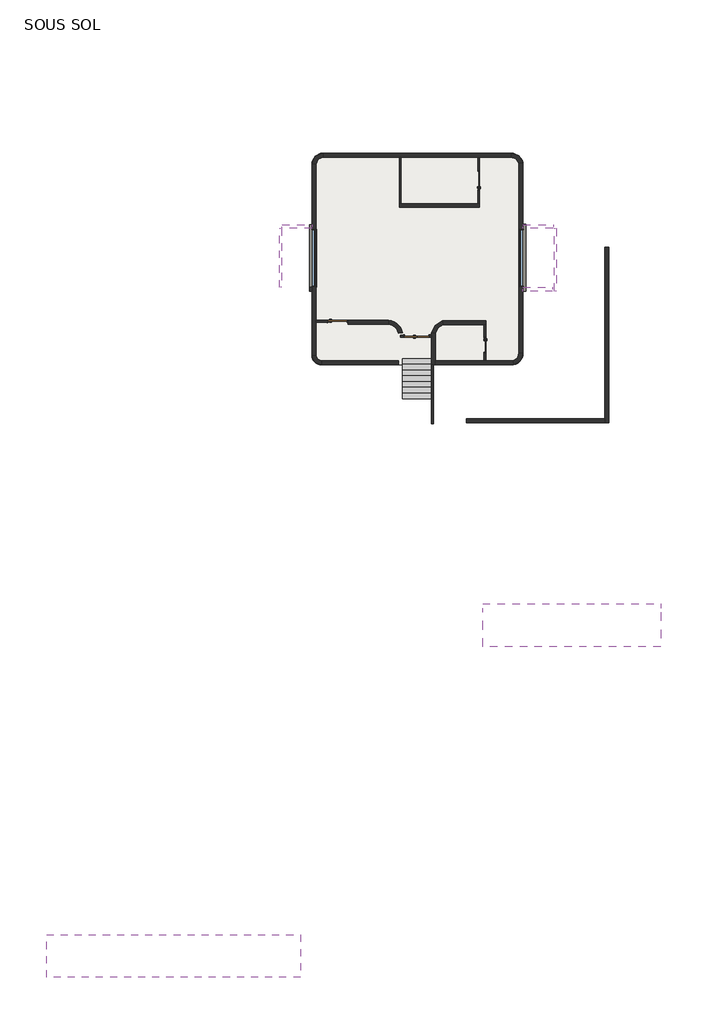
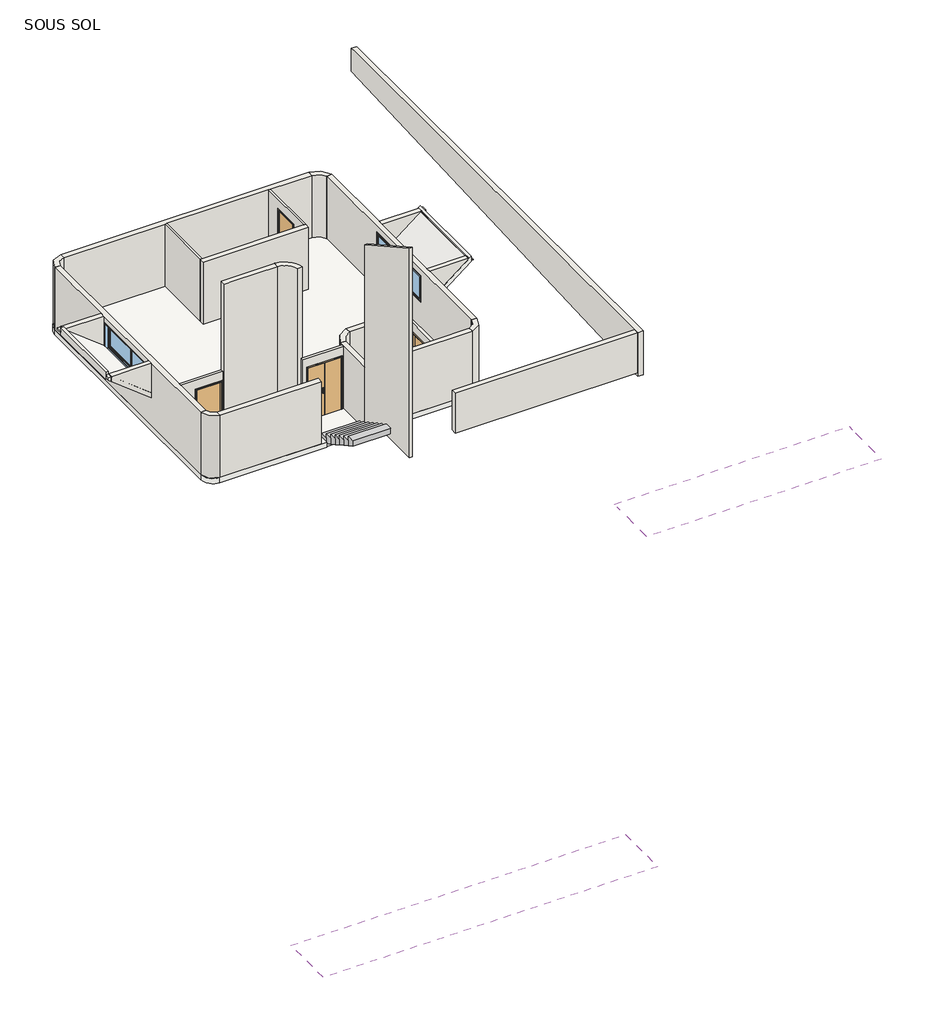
# One storey: 29 walls, 4 doors, 3 slabs, 2 coverings, 2 windows, 1 stair flight.
"""IFC4 building model written with IfcOpenShell, lengths in millimetres."""

from ifc_helpers import new_model, si_unit, point, frame, frame_2d, origin, place, context, project, spatial, polyline, circle_curve, trimmed, segment, composite_curve, outline, extrude, faceted_brep, transform, mapped, element, save
from ifc_brep_helpers import plane_surface, cylinder_surface, revolved_surface, advanced_brep
from components import door_eeb2bbe0, door_b2d4c190, door_68d1b237, double_r_1_23m_x_2_04m_3a946b1f, window_280_x_100_cm_213e6699

model = new_model("IFC4")

# Units and contexts
model_context = context("Model", 3, world=origin())
ifc_project = project(units=[si_unit("LENGTHUNIT", "METRE", prefix="MILLI")], contexts=[model_context])

# Site, building, storey
site = spatial("IfcSite", under=ifc_project)
building = spatial("IfcBuilding", under=site)
storey = spatial("IfcBuildingStorey", under=building, Name="SOUS SOL", Elevation=-316.6917258)

# Coverings
placement = place(None, origin())
element("IfcCovering", 1, ObjectType="Normal", at=placement, inside=storey, context=model_context, shape_type="SweptSolid", body=[
    extrude(outline(polyline([(-36043.9891754, -14029.1151366), (-36043.9891754, -11959.0543062), (-23707.6330901, -11959.0543062), (-23707.6330901, -14029.1151366), (-36043.9891754, -14029.1151366)])), frame((0.0, 0.0, 2903.3082742), z_axis=(0.0, 0.0, 1.0), x_axis=(1.0, 0.0, 0.0)), (0.0, 0.0, 1.0), 50.0),
])
element("IfcCovering", 2, ObjectType="Normal", at=placement, inside=storey, context=model_context, shape_type="Brep", body=[
    faceted_brep([(-6198.0226928, 2020.9456807, 2983.3082742), (-6184.2677718, 3710.8240436, 2983.3082742), (-6181.0119349, 4110.8240436, 2983.3082742), (-14844.7120712, 4110.8240436, 2983.3082742), (-14844.7120712, 3710.8240436, 2983.3082742), (-14844.7120712, 2020.9456807, 2983.3082742), (-6198.0226928, 2020.9456807, 2933.3082742), (-14844.7120712, 2020.9456807, 2933.3082742), (-14844.7120712, 4110.8240436, 2933.3082742), (-6181.0119349, 4110.8240436, 2933.3082742), (-14844.7120712, 4110.8240436, 2973.3082742), (-6181.0119349, 4110.8240436, 2973.3082742)], [[[0, 1, 2, 3, 4, 5]], [[6, 7, 8, 9]], [[0, 5, 7, 6]], [[5, 4, 3, 10, 8, 7]], [[3, 2, 11, 9, 8, 10]], [[2, 1, 0, 6, 9, 11]]]),
])

# Doors
door_shape = door_eeb2bbe0(model_context)
element("IfcDoor", 3, ObjectType="@_Int. Simple : @_PP (0.73m x 2.04m)", at=placement, inside=storey, context=model_context, shape_type="MappedRepresentation", body=[
    mapped(door_shape, transform((-14734.2310737, 16651.8576214, -316.6917258), x_axis=(0.0, -1.0, 0.0), y_axis=(1.0, 0.0, 0.0), z_axis=(0.0, 0.0, 1.0))),
])
door_2_shape = door_b2d4c190(model_context)
element("IfcDoor", 4, ObjectType="@_Int. Simple : @_PP (0.93m x 2.04m)", at=placement, inside=storey, context=model_context, shape_type="MappedRepresentation", body=[
    mapped(door_2_shape, transform((-15036.1992541, 24719.3764386, -316.6917258), x_axis=(0.0, 1.0, 0.0), y_axis=(-1.0, 0.0, 0.0), z_axis=(0.0, 0.0, 1.0))),
])
door_3_shape = door_68d1b237(model_context)
element("IfcDoor", 5, ObjectType="@_Int. Simple : @_PP (0.93m x 2.04m)", at=placement, inside=storey, context=model_context, shape_type="MappedRepresentation", body=[
    mapped(door_3_shape, transform((-21861.3825887, 17833.2103044, -316.6917258), x_axis=(1.0, 0.0, 0.0), y_axis=(0.0, 1.0, 0.0), z_axis=(0.0, 0.0, 1.0))),
])
double_r_1_23m_x_2_04m_shape = double_r_1_23m_x_2_04m_3a946b1f(model_context)
element("IfcDoor", 6, ObjectType="Double (R) : 1.23m x 2.04m", at=placement, inside=storey, context=model_context, shape_type="MappedRepresentation", body=[
    mapped(double_r_1_23m_x_2_04m_shape, transform((-18048.2239634, 17116.8576214, -316.6917258), x_axis=(-1.0, 0.0, 0.0), y_axis=(0.0, -1.0, 0.0), z_axis=(0.0, 0.0, 1.0))),
])

# Slabs
element("IfcSlab", 7, ObjectType="Dalle béton 200mm", at=placement, inside=storey, context=model_context, shape_type="AdvancedBrep", body=[
    advanced_brep(
    [(-18744.0938634, 15746.177026, -516.6917258), (-18744.0938634, 15718.9515879, -516.6917258), (-22688.1652748, 15718.9515879, -516.6917258), (-23138.1655744, 16168.9518875, -516.6917258), (-23138.1782793, 25472.4141322, -516.6917258), (-22616.1343681, 26004.3764386, -516.6917258), (-13471.2876312, 26004.3764386, -516.6917258), (-12882.8767062, 25547.954397, -516.6917258), (-12882.8767062, 16289.9094843, -516.6917258), (-13353.3724698, 15718.9515884, -516.6917258), (-17344.0938634, 15718.9515884, -516.6917258), (-17344.0938634, 15746.177026, -516.6917258), (-18744.0938634, 15746.177026, -316.6917258), (-17344.0938634, 15746.177026, -316.6917258), (-17344.0938634, 15718.9515884, -316.6917258), (-13353.3724698, 15718.9515884, -316.6917258), (-12882.8767062, 16289.9094843, -316.6917258), (-12882.8767062, 25547.954397, -316.6917258), (-13471.2876312, 26004.3764386, -316.6917258), (-22616.1343681, 26004.3764386, -316.6917258), (-23138.1782793, 25472.4141322, -316.6917258), (-23138.1782793, 16168.951887, -316.6917258), (-22688.1652748, 15718.9515879, -316.6917258), (-18744.0938634, 15718.9515879, -316.6917258)],
    [
        (0, 1),
        (1, 2),
        (2, 3, circle_curve(frame((-22688.1652748, 16168.9518875, -516.6917258), z_axis=(0.0, 0.0, -1.0), x_axis=(1.0, 0.0, 0.0)), 450.0002996)),
        (3, 4),
        (4, 5, circle_curve(frame((-22606.1217523, 25472.4141322, -516.6917258), z_axis=(0.0, 0.0, -1.0), x_axis=(1.0, 0.0, 0.0)), 532.056527)),
        (5, 6),
        (6, 7, circle_curve(frame((-13471.2876312, 25396.8811315, -516.6917258), z_axis=(0.0, 0.0, -1.0), x_axis=(1.0, 0.0, 0.0)), 607.4953071)),
        (7, 8),
        (8, 9, circle_curve(frame((-13464.5601397, 16289.9094843, -516.6917258), z_axis=(0.0, 0.0, -1.0), x_axis=(1.0, 0.0, 0.0)), 581.6834335)),
        (9, 10),
        (10, 11),
        (11, 0),
        (12, 13),
        (13, 14),
        (14, 15),
        (15, 16, circle_curve(frame((-13464.5601397, 16289.9094843, -316.6917258), z_axis=(0.0, 0.0, 1.0), x_axis=(1.0, 0.0, 0.0)), 581.6834335)),
        (16, 17),
        (17, 18, circle_curve(frame((-13471.2876312, 25396.8811315, -316.6917258), z_axis=(0.0, 0.0, 1.0), x_axis=(1.0, 0.0, 0.0)), 607.4953071)),
        (18, 19),
        (19, 20, circle_curve(frame((-22606.1217523, 25472.4141322, -316.6917258), z_axis=(0.0, 0.0, 1.0), x_axis=(1.0, 0.0, 0.0)), 532.056527)),
        (20, 21),
        (21, 22, circle_curve(frame((-22688.1652748, 16168.9518875, -316.6917258), z_axis=(0.0, 0.0, 1.0), x_axis=(1.0, 0.0, 0.0)), 450.0002996)),
        (22, 23),
        (23, 12),
        (10, 14),
        (13, 11),
        (12, 0),
        (23, 1),
        (22, 2),
        (21, 3),
        (20, 4),
        (19, 5),
        (18, 6),
        (17, 7),
        (16, 8),
        (15, 9),
    ],
    [
        plane_surface(frame((-18744.0938634, 15746.177026, -516.6917258), z_axis=(0.0, 0.0, -1.0), x_axis=(0.0, -1.0, 0.0))),
        plane_surface(frame((-18744.0938634, 15746.177026, -316.6917258), z_axis=(0.0, 0.0, 1.0), x_axis=(0.0, 1.0, 0.0))),
        plane_surface(frame((-17344.0938634, 15718.9515884, -516.6917258), z_axis=(-1.0, 0.0, 0.0), x_axis=(0.0, 0.0, 1.0))),
        plane_surface(frame((-17344.0938634, 15746.177026, -516.6917258), z_axis=(0.0, -1.0, 0.0), x_axis=(0.0, 0.0, 1.0))),
        plane_surface(frame((-18744.0938634, 15746.177026, -516.6917258), z_axis=(1.0, 0.0, 0.0), x_axis=(0.0, 0.0, 1.0))),
        plane_surface(frame((-18744.0938634, 15718.9515879, -516.6917258), z_axis=(0.0, -1.0, 0.0), x_axis=(0.0, 0.0, 1.0))),
        cylinder_surface(frame((-22688.1652748, 16168.9518875, -316.6917258), z_axis=(0.0, 0.0, -1.0), x_axis=(1.0, 0.0, 0.0)), 450.0002996),
        plane_surface(frame((-23138.1782793, 16168.951887, -516.6917258), z_axis=(-1.0, 0.0, 0.0), x_axis=(0.0, 0.0, 1.0))),
        cylinder_surface(frame((-22606.1217523, 25472.4141322, -316.6917258), z_axis=(0.0, 0.0, -1.0), x_axis=(1.0, 0.0, 0.0)), 532.056527),
        plane_surface(frame((-22616.1343681, 26004.3764386, -516.6917258), z_axis=(0.0, 1.0, 0.0), x_axis=(0.0, 0.0, 1.0))),
        cylinder_surface(frame((-13471.2876312, 25396.8811315, -316.6917258), z_axis=(0.0, 0.0, -1.0), x_axis=(1.0, 0.0, 0.0)), 607.4953071),
        plane_surface(frame((-12882.8767062, 25547.954397, -516.6917258), z_axis=(1.0, 0.0, 0.0), x_axis=(0.0, 0.0, 1.0))),
        cylinder_surface(frame((-13464.5601397, 16289.9094843, -316.6917258), z_axis=(0.0, 0.0, -1.0), x_axis=(1.0, 0.0, 0.0)), 581.6834335),
        plane_surface(frame((-13353.3724698, 15718.9515884, -516.6917258), z_axis=(0.0, -1.0, 0.0), x_axis=(0.0, 0.0, 1.0))),
    ],
    [
        (0, [[1, 2, 3, 4, 5, 6, 7, 8, 9, 10, 11, 12]]),
        (1, [[13, 14, 15, 16, 17, 18, 19, 20, 21, 22, 23, 24]]),
        (2, [[-11, 25, -14, 26]]),
        (3, [[-12, -26, -13, 27]]),
        (4, [[-1, -27, -24, 28]]),
        (5, [[-2, -28, -23, 29]]),
        (6, [[-3, -29, -22, 30]]),
        (7, [[-4, -30, -21, 31]]),
        (8, [[-5, -31, -20, 32]]),
        (9, [[-6, -32, -19, 33]]),
        (10, [[-7, -33, -18, 34]]),
        (11, [[-8, -34, -17, 35]]),
        (12, [[-9, -35, -16, 36]]),
        (13, [[-10, -36, -15, -25]]),
    ],
),
])
element("IfcSlab", 8, ObjectType="Béton sur place 150mm", at=placement, inside=storey, context=model_context, shape_type="Brep", body=[
    faceted_brep([(-12882.8767062, 22543.9517889, 780.0076335), (-11353.9252007, 22543.9517889, 1974.5554683), (-11353.9252007, 19293.9517898, 1974.5554683), (-12882.8767062, 19293.9517898, 780.0076335), (-11353.9252007, 22543.9517889, 2164.9082006), (-12882.8767062, 22543.9517889, 970.3603657), (-12882.8767062, 22523.9517893, 970.3603657), (-12882.8767062, 22343.9517893, 970.3603657), (-12882.8767062, 19483.9517893, 970.3603657), (-12882.8767062, 19303.9517893, 970.3603657), (-12882.8767062, 19293.9517898, 970.3603657), (-11353.9252007, 19293.9517898, 2164.9082006), (-11353.9252007, 22543.9517889, 2013.3082742), (-11353.9252007, 19293.9517898, 2013.3082742)], [[[0, 1, 2, 3]], [[4, 5, 6, 7, 8, 9, 10, 11]], [[1, 0, 5, 4, 12]], [[2, 1, 12, 4, 11, 13]], [[3, 2, 13, 11, 10]], [[0, 3, 10, 9, 8, 7, 6, 5]]]),
])
element("IfcSlab", 9, ObjectType="Béton sur place 150mm", at=placement, inside=storey, context=model_context, shape_type="Brep", body=[
    faceted_brep([(-23138.1782793, 22523.9517893, 780.0076335), (-23138.1782793, 19303.9517893, 780.0076335), (-24623.1782782, 19303.9517893, 1940.216788), (-24623.1782782, 22523.9517893, 1940.216788), (-23138.1782793, 22523.9517893, 970.3603657), (-24601.0848908, 22523.9517893, 2113.3082742), (-24623.1782782, 22523.9517893, 2130.5695203), (-24623.1782782, 19303.9517893, 2130.5695203), (-23138.1782793, 19303.9517893, 970.3603657), (-23138.1782793, 22343.9517893, 970.3603657), (-24623.1782782, 22523.9517893, 1946.7658773), (-24623.1782782, 22523.9517893, 2113.3082742)], [[[0, 1, 2, 3]], [[4, 5, 6, 7, 8, 9]], [[0, 3, 10, 11, 6, 5, 4]], [[3, 2, 7, 6, 11, 10]], [[2, 1, 8, 7]], [[1, 0, 4, 9, 8]]]),
])

# Stair flight
element("IfcStairFlight", 10, ObjectType="Profondeur de structure 200 mm", at=placement, inside=storey, context=model_context, shape_type="Brep", body=[
    faceted_brep([(-17344.0938634, 15746.177026, -165.4417258), (-17344.0938634, 16026.177026, -165.4417258), (-18744.0938634, 16026.177026, -165.4417258), (-18744.0938634, 15746.177026, -165.4417258), (-17344.0938634, 15746.177026, -316.6917258), (-17344.0938634, 16026.177026, -316.6917258), (-18744.0938634, 16026.177026, -316.6917258), (-18744.0938634, 15746.177026, -316.6917258), (-17344.0938634, 15466.177026, -14.1917258), (-17344.0938634, 15746.177026, -14.1917258), (-18744.0938634, 15746.177026, -14.1917258), (-18744.0938634, 15466.177026, -14.1917258), (-17344.0938634, 15466.177026, -241.5058599), (-17344.0938634, 15605.3640835, -316.6917258), (-18744.0938634, 15605.3640835, -316.6917258), (-18744.0938634, 15466.177026, -241.5058599), (-17344.0938634, 15186.177026, 137.0582742), (-17344.0938634, 15466.177026, 137.0582742), (-18744.0938634, 15466.177026, 137.0582742), (-18744.0938634, 15186.177026, 137.0582742), (-17344.0938634, 15186.177026, -90.2558599), (-18744.0938634, 15186.177026, -90.2558599), (-17344.0938634, 14906.177026, 60.9941401), (-17344.0938634, 14626.177026, 212.2441401), (-17344.0938634, 14346.177026, 363.4941401), (-17344.0938634, 14066.177026, 514.7441401), (-18744.0938634, 14066.177026, 514.7441401), (-18744.0938634, 14346.177026, 363.4941401), (-18744.0938634, 14626.177026, 212.2441401), (-18744.0938634, 14906.177026, 60.9941401), (-17344.0938634, 14906.177026, 288.3082742), (-17344.0938634, 15186.177026, 288.3082742), (-18744.0938634, 15186.177026, 288.3082742), (-18744.0938634, 14906.177026, 288.3082742), (-17344.0938634, 14626.177026, 439.5582742), (-17344.0938634, 14906.177026, 439.5582742), (-18744.0938634, 14906.177026, 439.5582742), (-18744.0938634, 14626.177026, 439.5582742), (-17344.0938634, 14346.177026, 590.8082742), (-17344.0938634, 14626.177026, 590.8082742), (-18744.0938634, 14626.177026, 590.8082742), (-18744.0938634, 14346.177026, 590.8082742), (-17344.0938634, 14066.177026, 742.0582742), (-17344.0938634, 14346.177026, 742.0582742), (-18744.0938634, 14346.177026, 742.0582742), (-18744.0938634, 14066.177026, 742.0582742), (-17344.0938634, 14066.177026, 693.3082742), (-18744.0938634, 14066.177026, 693.3082742)], [[[0, 1, 2, 3]], [[1, 0, 4, 5]], [[2, 1, 5, 6]], [[3, 2, 6, 7]], [[8, 9, 10, 11]], [[4, 0, 9, 8, 12, 13]], [[0, 3, 10, 9]], [[3, 7, 14, 15, 11, 10]], [[16, 17, 18, 19]], [[17, 16, 20, 12, 8]], [[8, 11, 18, 17]], [[19, 18, 11, 15, 21]], [[5, 4, 13, 14, 7, 6]], [[14, 13, 12, 20, 22, 23, 24, 25, 26, 27, 28, 29, 21, 15]], [[30, 31, 32, 33]], [[31, 30, 22, 20, 16]], [[16, 19, 32, 31]], [[33, 32, 19, 21, 29]], [[34, 35, 36, 37]], [[35, 34, 23, 22, 30]], [[30, 33, 36, 35]], [[37, 36, 33, 29, 28]], [[38, 39, 40, 41]], [[39, 38, 24, 23, 34]], [[34, 37, 40, 39]], [[41, 40, 37, 28, 27]], [[42, 43, 44, 45]], [[43, 42, 46, 25, 24, 38]], [[38, 41, 44, 43]], [[45, 44, 41, 27, 26, 47]], [[42, 45, 47, 26, 25, 46]]]),
])

# Walls
element("IfcWall", 11, ObjectType="Mur EXE 200- Hach", at=placement, inside=storey, context=model_context, shape_type="Brep", body=[
    faceted_brep([(-8706.0295786, 12898.7206382, 504.5030921), (-8706.0295786, 31180.2669841, 1315.26216), (-8706.0295786, 31180.2669841, 2213.3082742), (-8706.0295786, 12898.7206382, 2213.3082742), (-8906.0295786, 12898.7206382, 504.5030921), (-8906.0295786, 12898.7206382, 653.4214103), (-8906.0295786, 12898.7206382, 2200.7617745), (-8906.0295786, 12898.7206382, 2213.3082742), (-8906.0295786, 30980.2669841, 2213.3082742), (-8906.0295786, 31180.2669841, 2213.3082742), (-8906.0295786, 31180.2669841, 2013.3082742), (-8906.0295786, 31180.2669841, 1315.26216)], [[[0, 1, 2, 3]], [[4, 5, 6, 7, 8, 9, 10, 11]], [[2, 1, 11, 10, 9]], [[3, 2, 9, 8, 7]], [[1, 0, 4, 11]], [[0, 3, 7, 6, 5, 4]]]),
])
element("IfcWall", 12, ObjectType="@_Générique - Int. 100 mm", at=placement, inside=storey, context=model_context, shape_type="Brep", body=[
    faceted_brep([(-17344.0938634, 15718.9515884, -366.7667354), (-17344.0938634, 14574.5706195, 313.3082742), (-17344.0938634, 12862.8866559, 313.3082742), (-17344.0938634, 12862.8866559, 8484.4822943), (-17344.0938634, 15718.9515884, 6881.463312), (-17344.0938634, 15718.9515884, 2113.3082742), (-17344.0938634, 15718.9515884, -316.6917258), (-17244.0938634, 15718.9515884, -366.7667354), (-17244.0938634, 15718.9515884, 6881.463312), (-17244.0938634, 12862.8866559, 8484.4822943), (-17244.0938634, 12862.8866559, 313.3082742), (-17244.0938634, 14574.5706195, 313.3082742)], [[[0, 1, 2, 3, 4, 5, 6]], [[7, 8, 9, 10, 11]], [[2, 1, 11, 10]], [[3, 2, 10, 9]], [[0, 6, 5, 4, 8, 7]], [[4, 3, 9, 8]], [[1, 0, 7, 11]]]),
])
element("IfcWall", 13, ObjectType="@_Générique - Int. 200 mm", at=placement, inside=storey, context=model_context, shape_type="Brep", body=[
    faceted_brep([(-17144.0938634, 15718.9515884, -316.6917258), (-13353.3724698, 15718.9515884, -316.6917258), (-13353.3724698, 15718.9515884, 2113.3082742), (-15635.8209314, 15718.9515884, 2113.3082742), (-15835.8209314, 15718.9515884, 2113.3082742), (-17144.0938634, 15718.9515884, 2113.3082742), (-13374.7131426, 15918.9515884, -316.6917258), (-14684.2310737, 15918.9515884, -316.6917258), (-14784.2310737, 15918.9515884, -316.6917258), (-17144.0938634, 15918.9515884, -316.6917258), (-17144.0938634, 15918.9515884, 2113.3082742), (-14784.2310737, 15918.9515884, 2113.3082742), (-14684.2310737, 15918.9515884, 2113.3082742), (-13374.7131426, 15918.9515884, 2113.3082742)], [[[0, 1, 2, 3, 4, 5]], [[6, 7, 8, 9, 10, 11, 12, 13]], [[1, 0, 9, 8, 7, 6]], [[13, 12, 11, 10, 5, 4, 3, 2]], [[2, 1, 6, 13]], [[0, 5, 10, 9]]]),
])
element("IfcWall", 14, ObjectType="@_Générique - Int. 200 mm", at=placement, inside=storey, context=model_context, shape_type="Brep", body=[
    faceted_brep([(-12882.8767062, 16289.9094843, -316.6917258), (-12882.8767062, 25547.954397, -316.6917258), (-12882.8767062, 25547.954397, 2113.3082742), (-12882.8767062, 22523.9517893, 2113.3082742), (-12882.8767062, 22343.9517893, 2113.3082742), (-12882.8767062, 19483.9517893, 2113.3082742), (-12882.8767062, 19303.9517893, 2113.3082742), (-12882.8767062, 16289.9094843, 2113.3082742), (-12882.8767062, 19503.9517893, 863.3082742), (-12882.8767062, 19503.9517893, 1883.3082742), (-12882.8767062, 22303.9517893, 1883.3082742), (-12882.8767062, 22303.9517893, 863.3082742), (-13082.8767062, 16289.9094843, -316.6917258), (-13082.8767062, 16289.9094843, 2113.3082742), (-13082.8767062, 25520.1263289, 2113.3082742), (-13082.8767062, 25520.1263289, -316.6917258), (-13082.8767062, 19503.9517893, 1883.3082742), (-13082.8767062, 19503.9517893, 883.3082742), (-13082.8767062, 22303.9517893, 883.3082742), (-13082.8767062, 22303.9517893, 1883.3082742), (-12922.8767062, 19503.9517893, 863.3082742), (-12922.8767062, 19503.9517893, 848.3082742), (-13052.8767062, 19503.9517893, 848.3082742), (-13052.8767062, 19503.9517893, 883.3082742), (-13052.8767062, 22303.9517893, 883.3082742), (-13052.8767062, 22303.9517893, 848.3082742), (-12922.8767062, 22303.9517893, 848.3082742), (-12922.8767062, 22303.9517893, 863.3082742)], [[[0, 1, 2, 3, 4, 5, 6, 7], [8, 9, 10, 11]], [[12, 13, 14, 15], [16, 17, 18, 19]], [[1, 0, 12, 15]], [[7, 6, 5, 4, 3, 2, 14, 13]], [[0, 7, 13, 12]], [[2, 1, 15, 14]], [[16, 9, 8, 20, 21, 22, 23, 17]], [[18, 24, 25, 26, 27, 11, 10, 19]], [[17, 23, 24, 18]], [[23, 22, 25, 24]], [[22, 21, 26, 25]], [[21, 20, 27, 26]], [[20, 8, 11, 27]], [[9, 16, 19, 10]]]),
])
element("IfcWall", 15, ObjectType="@_Générique - Int. 200 mm", at=placement, inside=storey, context=model_context, shape_type="Brep", body=[
    faceted_brep([(-22938.1782793, 16168.951887, -316.6917258), (-22938.1782793, 17783.2103044, -316.6917258), (-22938.1782793, 17883.2103044, -316.6917258), (-22938.1782793, 25472.4141322, -316.6917258), (-22938.1782793, 25472.4141322, 2113.3082742), (-22938.1782793, 17883.2103044, 2113.3082742), (-22938.1782793, 17783.2103044, 2113.3082742), (-22938.1782793, 16168.951887, 2113.3082742), (-22938.1782793, 22303.9517893, 1883.3082742), (-22938.1782793, 22303.9517893, 883.3082742), (-22938.1782793, 19503.9517893, 883.3082742), (-22938.1782793, 19503.9517893, 1883.3082742), (-23138.1782793, 16168.951887, -316.6917258), (-23138.1782793, 16168.951887, 2113.3082742), (-23138.1782793, 19303.9517893, 2113.3082742), (-23138.1782793, 19483.9517893, 2113.3082742), (-23138.1782793, 22343.9517893, 2113.3082742), (-23138.1782793, 22523.9517893, 2113.3082742), (-23138.1782793, 25472.4141322, 2113.3082742), (-23138.1782793, 25472.4141322, -316.6917258), (-23138.1782793, 22303.9517893, 863.3082742), (-23138.1782793, 22303.9517893, 1883.3082742), (-23138.1782793, 19503.9517893, 1883.3082742), (-23138.1782793, 19503.9517893, 863.3082742), (-23098.1782793, 22303.9517893, 863.3082742), (-23098.1782793, 22303.9517893, 848.3082742), (-22968.1782793, 22303.9517893, 848.3082742), (-22968.1782793, 22303.9517893, 883.3082742), (-22968.1782793, 19503.9517893, 883.3082742), (-22968.1782793, 19503.9517893, 848.3082742), (-23098.1782793, 19503.9517893, 848.3082742), (-23098.1782793, 19503.9517893, 863.3082742)], [[[0, 1, 2, 3, 4, 5, 6, 7], [8, 9, 10, 11]], [[12, 13, 14, 15, 16, 17, 18, 19], [20, 21, 22, 23]], [[3, 2, 1, 0, 12, 19]], [[4, 3, 19, 18]], [[7, 6, 5, 4, 18, 17, 16, 15, 14, 13]], [[0, 7, 13, 12]], [[8, 21, 20, 24, 25, 26, 27, 9]], [[10, 28, 29, 30, 31, 23, 22, 11]], [[9, 27, 28, 10]], [[27, 26, 29, 28]], [[26, 25, 30, 29]], [[25, 24, 31, 30]], [[24, 20, 23, 31]], [[21, 8, 11, 22]]]),
])
element("IfcWall", 16, ObjectType="@_Générique - Int. 200 mm", at=placement, inside=storey, context=model_context, shape_type="SweptSolid", body=[
    extrude(outline(polyline([(-22688.17798, 15918.9515884), (-18944.0938634, 15918.9515884), (-18944.0938634, 15718.9515884), (-22688.17798, 15718.9515884), (-22688.17798, 15918.9515884)])), frame((0.0, 0.0, -316.6917258), z_axis=(0.0, 0.0, 1.0), x_axis=(1.0, 0.0, 0.0)), (0.0, 0.0, 1.0), 2430.0),
])
element("IfcWall", 17, ObjectType="@_Générique - Int. 200 mm", at=placement, inside=storey, context=model_context, shape_type="SweptSolid", body=[
    extrude(outline(composite_curve([segment(polyline([(-13471.2876312, 25804.3764386), (-13471.2876312, 26004.3764386)]), True, "CONTINUOUS"), segment(trimmed(circle_curve(frame_2d((-13471.2876312, 25396.8811315)), 607.4953071), [point((-13471.2876312, 26004.3764386))], [point((-12882.8767062, 25547.954397))], False, "CARTESIAN"), True, "CONTINUOUS"), segment(polyline([(-12882.8767062, 25547.954397), (-13082.8767062, 25520.1263289)]), True, "CONTINUOUS"), segment(trimmed(circle_curve(frame_2d((-13471.2876312, 25396.8811315)), 407.4953071), [point((-13082.8767062, 25520.1263289))], [point((-13471.2876312, 25804.3764386))], True, "CARTESIAN"), True, "CONTINUOUS")], self_intersect=False)), frame((0.0, 0.0, -316.6917258), z_axis=(0.0, 0.0, 1.0), x_axis=(1.0, 0.0, 0.0)), (0.0, 0.0, 1.0), 2430.0),
])
element("IfcWall", 18, ObjectType="@_Générique - Int. 200 mm", at=placement, inside=storey, context=model_context, shape_type="SweptSolid", body=[
    extrude(outline(composite_curve([segment(polyline([(-22688.17798, 15918.9515877), (-22688.17798, 15718.9515877)]), True, "CONTINUOUS"), segment(trimmed(circle_curve(frame_2d((-22688.17798, 16168.951887)), 450.0002994), [point((-22688.17798, 15718.9515877))], [point((-23138.1782793, 16168.951887))], False, "CARTESIAN"), True, "CONTINUOUS"), segment(polyline([(-23138.1782793, 16168.951887), (-22938.1782793, 16168.951887)]), True, "CONTINUOUS"), segment(trimmed(circle_curve(frame_2d((-22688.17798, 16168.951887)), 250.0002994), [point((-22938.1782793, 16168.951887))], [point((-22688.17798, 15918.9515877))], True, "CARTESIAN"), True, "CONTINUOUS")], self_intersect=False)), frame((0.0, 0.0, -316.6917258), z_axis=(0.0, 0.0, 1.0), x_axis=(1.0, 0.0, 0.0)), (0.0, 0.0, 1.0), 2430.0),
])
element("IfcWall", 19, ObjectType="@_Générique - Int. 200 mm", at=placement, inside=storey, context=model_context, shape_type="SweptSolid", body=[
    extrude(outline(composite_curve([segment(polyline([(-22938.1782793, 25472.4141322), (-23138.1782793, 25472.4141322)]), True, "CONTINUOUS"), segment(trimmed(circle_curve(frame_2d((-22606.1217523, 25472.4141322)), 532.056527), [point((-23138.1782793, 25472.4141322))], [point((-22616.1343681, 26004.3764386))], False, "CARTESIAN"), True, "CONTINUOUS"), segment(polyline([(-22616.1343681, 26004.3764386), (-22614.0315084, 25804.3764386)]), True, "CONTINUOUS"), segment(trimmed(circle_curve(frame_2d((-22606.1217523, 25472.4141322)), 332.056527), [point((-22614.0315084, 25804.3764386))], [point((-22938.1782793, 25472.4141322))], True, "CARTESIAN"), True, "CONTINUOUS")], self_intersect=False)), frame((0.0, 0.0, -316.6917258), z_axis=(0.0, 0.0, 1.0), x_axis=(1.0, 0.0, 0.0)), (0.0, 0.0, 1.0), 2430.0),
])
element("IfcWall", 20, ObjectType="@_Générique - Int. 200 mm", at=placement, inside=storey, context=model_context, shape_type="SweptSolid", body=[
    extrude(outline(composite_curve([segment(polyline([(-13353.3724698, 15718.9515884), (-13374.7131426, 15918.9515884)]), True, "CONTINUOUS"), segment(trimmed(circle_curve(frame_2d((-13464.5601397, 16289.9094843)), 381.6834335), [point((-13374.7131426, 15918.9515884))], [point((-13082.8767062, 16289.9094843))], True, "CARTESIAN"), True, "CONTINUOUS"), segment(polyline([(-13082.8767062, 16289.9094843), (-12882.8767062, 16289.9094843)]), True, "CONTINUOUS"), segment(trimmed(circle_curve(frame_2d((-13464.5601397, 16289.9094843)), 581.6834335), [point((-12882.8767062, 16289.9094843))], [point((-13353.3724698, 15718.9515884))], False, "CARTESIAN"), True, "CONTINUOUS")], self_intersect=False)), frame((0.0, 0.0, -316.6917258), z_axis=(0.0, 0.0, 1.0), x_axis=(1.0, 0.0, 0.0)), (0.0, 0.0, 1.0), 2430.0),
])
element("IfcWall", 21, ObjectType="@_Générique - Int. 70 mm", at=placement, inside=storey, context=model_context, shape_type="SweptSolid", body=[
    extrude(outline(polyline([(-18884.969343, 23547.8635422), (-18884.969343, 25804.3764386), (-18814.969343, 25804.3764386), (-18814.969343, 23547.8635422), (-18884.969343, 23547.8635422)])), frame((0.0, 0.0, -316.6917258), z_axis=(0.0, 0.0, 1.0), x_axis=(1.0, 0.0, 0.0)), (0.0, 0.0, 1.0), 2430.0),
])
element("IfcWall", 22, ObjectType="@_Générique - Int. 70 mm", at=placement, inside=storey, context=model_context, shape_type="SweptSolid", body=[
    extrude(outline(polyline([(23547.8635422, 2113.3082742), (25804.3764386, 2113.3082742), (25804.3764386, -316.6917258), (25184.3764386, -316.6917258), (25184.3764386, 1758.3082742), (24184.3764386, 1758.3082742), (24184.3764386, -316.6917258), (23547.8635422, -316.6917258), (23547.8635422, 2113.3082742)])), frame((-15071.1992541, 0.0, 0.0), z_axis=(1.0, 0.0, 0.0), x_axis=(0.0, 1.0, 0.0)), (0.0, 0.0, 1.0), 70.0),
])
element("IfcWall", 23, ObjectType="Mur EXE 200- Hach", at=placement, inside=storey, context=model_context, shape_type="SweptSolid", body=[
    extrude(outline(polyline([(-8906.0295786, 12898.7206382), (-15635.8209314, 12898.7206382), (-15635.8209314, 13098.7206382), (-8906.0295786, 13098.7206382), (-8906.0295786, 12898.7206382)])), frame((0.0, 0.0, 653.4214103), z_axis=(0.0, 0.0, 1.0), x_axis=(1.0, 0.0, 0.0)), (0.0, 0.0, 1.0), 1547.3403643),
])
element("IfcWall", 24, ObjectType="@_Générique - Int. 200 mm", at=placement, inside=storey, context=model_context, shape_type="Brep", body=[
    faceted_brep([(-13471.2876312, 26004.3764386, -316.6917258), (-22616.1343681, 26004.3764386, -316.6917258), (-22616.1343681, 26004.3764386, 2113.3082742), (-13471.2876312, 26004.3764386, 2113.3082742), (-13471.2876312, 25804.3764386, -316.6917258), (-13471.2876312, 25804.3764386, 2113.3082742), (-15001.1992541, 25804.3764386, 2113.3082742), (-15071.1992541, 25804.3764386, 2113.3082742), (-18814.969343, 25804.3764386, 2113.3082742), (-18884.969343, 25804.3764386, 2113.3082742), (-22614.0315084, 25804.3764386, 2113.3082742), (-22614.0315084, 25804.3764386, -316.6917258), (-18884.969343, 25804.3764386, -316.6917258), (-18814.969343, 25804.3764386, -316.6917258), (-15071.1992541, 25804.3764386, -316.6917258), (-15001.1992541, 25804.3764386, -316.6917258)], [[[0, 1, 2, 3]], [[4, 5, 6, 7, 8, 9, 10, 11, 12, 13, 14, 15]], [[1, 0, 4, 15, 14, 13, 12, 11]], [[3, 2, 10, 9, 8, 7, 6, 5]], [[0, 3, 5, 4]], [[2, 1, 11, 10]]]),
])
element("IfcWall", 25, ObjectType="@_Générique - Int. 100 mm", at=placement, inside=storey, context=model_context, shape_type="SweptSolid", body=[
    extrude(outline(polyline([(2113.3082742, -18844.0938634), (-316.6917258, -18844.0938634), (-316.6917258, -18698.2239634), (1758.3082742, -18698.2239634), (1758.3082742, -17398.2239634), (-316.6917258, -17398.2239634), (-316.6917258, -17344.0938634), (2113.3082742, -17344.0938634), (2113.3082742, -18844.0938634)])), frame((0.0, 17066.8576214, 0.0), z_axis=(0.0, 1.0, 0.0), x_axis=(0.0, 0.0, 1.0)), (0.0, 0.0, 1.0), 100.0),
])
element("IfcWall", 26, ObjectType="@_Générique - Int. 100 mm", at=placement, inside=storey, context=model_context, shape_type="SweptSolid", body=[
    extrude(outline(polyline([(15918.9515884, 2113.3082742), (17663.2103044, 2113.3082742), (17663.2103044, -316.6917258), (17086.8576214, -316.6917258), (17086.8576214, 1758.3082742), (16286.8576214, 1758.3082742), (16286.8576214, -316.6917258), (15918.9515884, -316.6917258), (15918.9515884, 2113.3082742)])), frame((-14784.2310737, 0.0, 0.0), z_axis=(1.0, 0.0, 0.0), x_axis=(0.0, 1.0, 0.0)), (0.0, 0.0, 1.0), 100.0),
])
element("IfcWall", 27, ObjectType="@_Générique - Int. 100 mm", at=placement, inside=storey, context=model_context, shape_type="SweptSolid", body=[
    extrude(outline(polyline([(-316.6917258, -21386.3825887), (2113.3082742, -21386.3825887), (2113.3082742, -22938.1782793), (-316.6917258, -22938.1782793), (-316.6917258, -22396.3825887), (1758.3082742, -22396.3825887), (1758.3082742, -21396.3825887), (-316.6917258, -21396.3825887), (-316.6917258, -21386.3825887)])), frame((0.0, 17783.2103044, 0.0), z_axis=(0.0, 1.0, 0.0), x_axis=(0.0, 0.0, 1.0)), (0.0, 0.0, 1.0), 100.0),
])
element("IfcWall", 28, ObjectType="@_Générique - Int. 100 mm", at=placement, inside=storey, context=model_context, shape_type="Brep", body=[
    faceted_brep([(-24623.1782782, 19483.9517893, 1943.0933669), (-24623.1782782, 22343.9517893, 1943.0933669), (-24623.1782782, 22343.9517893, 1946.7658773), (-24623.1782782, 22343.9517893, 2113.3082742), (-24623.1782782, 22343.9517893, 2213.3082742), (-24623.1782782, 19483.9517893, 2213.3082742), (-24723.1782782, 19483.9517893, 1943.0933669), (-24723.1782782, 19483.9517893, 2005.4234543), (-24723.1782782, 19483.9517893, 2113.3082742), (-24723.1782782, 19483.9517893, 2213.3082742), (-24723.1782782, 22343.9517893, 2213.3082742), (-24723.1782782, 22343.9517893, 1943.0933669)], [[[0, 1, 2, 3, 4, 5]], [[6, 7, 8, 9, 10, 11]], [[1, 0, 6, 11]], [[5, 4, 10, 9]], [[0, 5, 9, 8, 7, 6]], [[4, 3, 2, 1, 11, 10]]]),
])
element("IfcWall", 29, ObjectType="Ext. Voile BA 180", at=placement, inside=storey, context=model_context, shape_type="Brep", body=[
    faceted_brep([(-15001.1992541, 23547.8635422, -316.6917258), (-15071.1992541, 23547.8635422, -316.6917258), (-18814.969343, 23547.8635422, -316.6917258), (-18884.969343, 23547.8635422, -316.6917258), (-18884.969343, 23547.8635422, 2113.3082742), (-18814.969343, 23547.8635422, 2113.3082742), (-15071.1992541, 23547.8635422, 2113.3082742), (-15001.1992541, 23547.8635422, 2113.3082742), (-15001.1992541, 23367.8635422, -316.6917258), (-15001.1992541, 23367.8635422, 2113.3082742), (-18884.969343, 23367.8635422, 2113.3082742), (-18884.969343, 23367.8635422, -316.6917258)], [[[0, 1, 2, 3, 4, 5, 6, 7]], [[8, 9, 10, 11]], [[3, 2, 1, 0, 8, 11]], [[7, 6, 5, 4, 10, 9]], [[4, 3, 11, 10]], [[0, 7, 9, 8]]]),
])
element("IfcWall", 30, ObjectType="Ext. Voile BA 180", at=placement, inside=storey, context=model_context, shape_type="SweptSolid", body=[
    extrude(outline(polyline([(2113.3082742, -11453.9252007), (2113.3082742, -12882.8767062), (970.3603657, -12882.8767062), (2086.779638, -11453.9252007), (2113.3082742, -11453.9252007)])), frame((0.0, 19303.9517893, 0.0), z_axis=(0.0, 1.0, 0.0), x_axis=(0.0, 0.0, 1.0)), (0.0, 0.0, 1.0), 180.0),
])
element("IfcWall", 31, ObjectType="Ext. Voile BA 180", at=placement, inside=storey, context=model_context, shape_type="Brep", body=[
    faceted_brep([(-11273.9252007, 22523.9517893, 2113.3082742), (-11273.9252007, 22523.9517893, 2043.6074077), (-11353.9252007, 22523.9517893, 1981.1045576), (-11353.9252007, 22523.9517893, 2113.3082742), (-11273.9252007, 22343.9517893, 2043.6074077), (-11273.9252007, 22343.9517893, 2113.3082742), (-11353.9252007, 22343.9517893, 2113.3082742), (-11353.9252007, 22343.9517893, 2013.3082742), (-11353.9252007, 22343.9517893, 1992.1684882), (-11353.9252007, 22343.9517893, 1981.1045576)], [[[0, 1, 2, 3]], [[4, 5, 6, 7, 8, 9]], [[5, 0, 3, 6]], [[1, 0, 5, 4]], [[1, 4, 9, 2]], [[3, 2, 9, 8, 7, 6]]]),
    faceted_brep([(-12882.8767062, 22523.9517893, 970.3603657), (-12882.8767062, 22523.9517893, 2113.3082742), (-11419.9700947, 22523.9517893, 2113.3082742), (-11419.9700947, 22343.9517893, 2113.3082742), (-11453.9252007, 22343.9517893, 2113.3082742), (-12882.8767062, 22343.9517893, 2113.3082742), (-12882.8767062, 22343.9517893, 970.3603657), (-11453.9252007, 22343.9517893, 2086.779638)], [[[0, 1, 2]], [[3, 4, 5, 6, 7]], [[5, 1, 0, 6]], [[1, 5, 4, 3, 2]], [[0, 2, 3, 7, 6]]]),
])
element("IfcWall", 32, ObjectType="Ext. Voile BA 180", at=placement, inside=storey, context=model_context, shape_type="Brep", body=[
    faceted_brep([(-11273.9252007, 19303.9517893, 1992.1684882), (-11273.9252007, 22343.9517893, 1992.1684882), (-11273.9252007, 22343.9517893, 2013.3082742), (-11273.9252007, 19303.9517893, 2013.3082742), (-11353.9252007, 19303.9517893, 1992.1684882), (-11353.9252007, 22343.9517893, 1992.1684882), (-11353.9251982, 19303.9517893, 2013.3082742), (-11353.9252007, 22343.9517893, 2013.3082742)], [[[0, 1, 2, 3]], [[1, 0, 4, 5]], [[0, 3, 6, 4]], [[2, 1, 5, 7]], [[3, 2, 7, 6]], [[5, 4, 6, 7]]]),
    faceted_brep([(-11453.9252007, 19303.9517893, 2113.3082742), (-11453.9252007, 19483.9517893, 2113.3082742), (-11453.9252007, 22343.9517893, 2113.3082742), (-11453.9252007, 22343.9517893, 2086.779638), (-11453.9252007, 19483.9517893, 2086.779638), (-11453.9252007, 19303.9517893, 2086.779638), (-11419.9700947, 19303.9517893, 2113.3082742), (-11419.9700947, 22343.9517893, 2113.3082742)], [[[0, 1, 2, 3, 4, 5]], [[2, 1, 0, 6, 7]], [[0, 5, 6]], [[3, 2, 7]], [[5, 4, 3, 7, 6]]]),
])
element("IfcWall", 33, ObjectType="Ext. Voile BA 180", at=placement, inside=storey, context=model_context, shape_type="SweptSolid", body=[
    extrude(outline(polyline([(779.2407554, -23138.1782793), (2113.3082742, -23138.1782793), (2113.3082742, -24723.1782782), (2005.4234543, -24723.1782782), (779.2407554, -23138.1782793)])), frame((0.0, 19303.9517893, 0.0), z_axis=(0.0, 1.0, 0.0), x_axis=(0.0, 0.0, 1.0)), (0.0, 0.0, 1.0), 180.0),
])
element("IfcWall", 34, ObjectType="Ext. Voile BA 180", at=placement, inside=storey, context=model_context, shape_type="SweptSolid", body=[
    extrude(outline(polyline([(2113.3082742, -24747.1297848), (2043.6074077, -24747.1297848), (1946.7658773, -24623.1782782), (2113.3082742, -24623.1782782), (2113.3082742, -24747.1297848)])), frame((0.0, 22343.9517893, 0.0), z_axis=(0.0, 1.0, 0.0), x_axis=(0.0, 0.0, 1.0)), (0.0, 0.0, 1.0), 180.0),
    extrude(outline(polyline([(970.3603657, -23138.1782793), (2113.3082742, -23138.1782793), (2113.3082742, -24601.0848908), (970.3603657, -23138.1782793)])), frame((0.0, 22343.9517893, 0.0), z_axis=(0.0, 1.0, 0.0), x_axis=(0.0, 0.0, 1.0)), (0.0, 0.0, 1.0), 180.0),
])
element("IfcWall", 35, ObjectType="Ext. Voile BA 200", at=placement, inside=storey, context=model_context, shape_type="Brep", body=[
    faceted_brep([(-17344.0938634, 17289.4701556, -316.6917258), (-17344.0938634, 17166.8576214, -316.6917258), (-17344.0938634, 17066.8576214, -316.6917258), (-17344.0938634, 15718.9515884, -316.6917258), (-17344.0938634, 15718.9515884, 2113.3082742), (-17344.0938634, 17066.8576214, 2113.3082742), (-17344.0938634, 17166.8576214, 2113.3082742), (-17344.0938634, 17289.4701556, 2113.3082742), (-17144.0938634, 17267.2754256, -316.6917258), (-17144.0938634, 17267.2754256, 2113.3082742), (-17144.0938634, 15918.9515884, 2113.3082742), (-17144.0938634, 15718.9515884, 2113.3082742), (-17144.0938634, 15718.9515884, -316.6917258), (-17144.0938634, 15918.9515884, -316.6917258)], [[[0, 1, 2, 3, 4, 5, 6, 7]], [[8, 9, 10, 11, 12, 13]], [[3, 2, 1, 0, 8, 13, 12]], [[7, 6, 5, 4, 11, 10, 9]], [[4, 3, 12, 11]], [[0, 7, 9, 8]]]),
])
element("IfcWall", 36, ObjectType="Ext. Voile BA 200", at=placement, inside=storey, context=model_context, shape_type="AdvancedBrep", body=[
    advanced_brep(
    [(-19422.4184701, 17883.2103044, -316.6917258), (-18744.0938634, 17286.9701556, -316.6917258), (-18944.0938634, 17264.7754256, -316.6917258), (-19430.6650985, 17683.2103044, -316.6917258), (-19422.4184701, 17883.2103044, 5571.8727639), (-19392.0346068, 17880.2592895, 5571.8727639), (-18775.5320026, 17396.0089168, 5571.8727639), (-18744.0938634, 17286.9701556, 5571.8727639), (-18744.0938634, 17286.9701556, 2253.3082742), (-18944.0938634, 17264.7754256, 2253.3082742), (-18944.0938634, 17264.7754256, 5571.8727639), (-19430.6650985, 17683.2103044, 5571.8727639)],
    [
        (0, 1, circle_curve(frame((-19479.8610382, 17133.884715, -316.6917258), z_axis=(0.0, 0.0, -1.0), x_axis=(0.0, 1.0, 0.0)), 751.5241098)),
        (1, 2),
        (2, 3, circle_curve(frame((-19479.8610382, 17133.884715, -316.6917258), z_axis=(0.0, 0.0, 1.0), x_axis=(0.0, 1.0, 0.0)), 551.5241098)),
        (3, 0),
        (0, 4),
        (4, 5, circle_curve(frame((-19479.8610382, 17133.884715, 5571.8727639), z_axis=(0.0, 0.0, -1.0), x_axis=(0.0, 1.0, 0.0)), 751.5241098)),
        (5, 6, circle_curve(frame((-19479.8610382, 17133.884715, 5571.8727639), z_axis=(0.0, 0.0, -1.0), x_axis=(0.0, 1.0, 0.0)), 751.5241098)),
        (6, 7, circle_curve(frame((-19479.8610382, 17133.884715, 5571.8727639), z_axis=(0.0, 0.0, -1.0), x_axis=(0.0, 1.0, 0.0)), 751.5241098)),
        (7, 8),
        (8, 1),
        (2, 9),
        (9, 10),
        (10, 11, circle_curve(frame((-19479.8610382, 17133.884715, 5571.8727639), z_axis=(0.0, 0.0, 1.0), x_axis=(0.0, 1.0, 0.0)), 551.5241098)),
        (11, 3),
        (7, 10),
        (11, 4),
    ],
    [
        plane_surface(frame((-19479.8610382, 17885.4088248, -316.6917258), z_axis=(0.0, 0.0, -1.0), x_axis=(1.0, 0.0, 0.0))),
        cylinder_surface(frame((-19479.8610382, 17133.884715, -316.6917258), z_axis=(0.0, 0.0, 1.0), x_axis=(0.0, 1.0, 0.0)), 751.5241098),
        revolved_surface(polyline([(-19479.8610382, 17685.4088248, -316.6917258), (-19479.8610382, 17685.4088248, 5571.8727639)]), (-19479.8610382, 17133.884715, -316.6917258), (0.0, 0.0, -1.0)),
        plane_surface(frame((-18944.0938634, 17264.7754256, -316.6917258), z_axis=(0.1102965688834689, -0.9938987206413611, 0.0), x_axis=(0.9938987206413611, 0.1102965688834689, 0.0))),
        plane_surface(frame((-19422.4184701, 17883.2103044, -316.6917258), z_axis=(-0.999150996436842, 0.041198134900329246, 0.0), x_axis=(-0.041198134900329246, -0.999150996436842, 0.0))),
        plane_surface(frame((-22586.1843928, 15631.1606676, 5571.8727639), z_axis=(0.0, 0.0, 1.0), x_axis=(-1.0, 0.0, 0.0))),
    ],
    [
        (0, [[1, 2, 3, 4]]),
        (1, [[-1, 5, 6, 7, 8, 9, 10]]),
        (2, [[-3, 11, 12, 13, 14]]),
        (3, [[-2, -10, -9, 15, -12, -11]]),
        (4, [[-5, -4, -14, 16]]),
        (5, [[-8, -7, -6, -16, -13, -15]]),
    ],
),
])
element("IfcWall", 37, ObjectType="Ext. Voile BA 200", at=placement, inside=storey, context=model_context, shape_type="Brep", body=[
    faceted_brep([(-21386.3825887, 17683.2103044, -316.6917258), (-19430.6650985, 17683.2103044, -316.6917258), (-19430.6650985, 17683.2103044, 5571.8727639), (-20961.3825887, 17683.2103044, 5571.8727639), (-21011.3825887, 17683.2103044, 5571.8727639), (-21386.3825887, 17683.2103044, 5571.8727639), (-21386.3825887, 17883.2103044, -316.6917258), (-21386.3825887, 17883.2103044, 5571.8727639), (-19442.0346068, 17883.2103044, 5571.8727639), (-19422.4184701, 17883.2103044, 5571.8727639), (-19422.4184701, 17883.2103044, -316.6917258)], [[[0, 1, 2, 3, 4, 5]], [[6, 7, 8, 9, 10]], [[1, 0, 6, 10]], [[0, 5, 7, 6]], [[5, 4, 3, 2, 9, 8, 7]], [[1, 10, 9, 2]]]),
])
element("IfcWall", 38, ObjectType="Ext. Voile BA 200", at=placement, inside=storey, context=model_context, shape_type="Brep", body=[
    faceted_brep([(-16771.5248566, 17663.2103044, -316.6917258), (-14784.2310737, 17663.2103044, -316.6917258), (-14684.2310737, 17663.2103044, -316.6917258), (-14684.2310737, 17663.2103044, 2113.3082742), (-14784.2310737, 17663.2103044, 2113.3082742), (-16771.5248566, 17663.2103044, 2113.3082742), (-16799.4105712, 17863.2103044, -316.6917258), (-16799.4105712, 17863.2103044, 2113.3082742), (-14684.2310737, 17863.2103044, 2113.3082742), (-14684.2310737, 17863.2103044, -316.6917258)], [[[0, 1, 2, 3, 4, 5]], [[6, 7, 8, 9]], [[2, 1, 0, 6, 9]], [[5, 4, 3, 8, 7]], [[3, 2, 9, 8]], [[0, 5, 7, 6]]]),
])
element("IfcWall", 39, ObjectType="Ext. Voile BA 200", at=placement, inside=storey, context=model_context, shape_type="SweptSolid", body=[
    extrude(outline(composite_curve([segment(polyline([(-17144.0938634, 17267.2754256), (-17344.0938634, 17289.4701556)]), True, "CONTINUOUS"), segment(trimmed(circle_curve(frame_2d((-16608.3266887, 17136.384715)), 751.5241098), [point((-17344.0938634, 17289.4701556))], [point((-16799.4105712, 17863.2103044))], False, "CARTESIAN"), True, "CONTINUOUS"), segment(polyline([(-16799.4105712, 17863.2103044), (-16771.5248566, 17663.2103044)]), True, "CONTINUOUS"), segment(trimmed(circle_curve(frame_2d((-16608.3266887, 17136.384715)), 551.5241098), [point((-16771.5248566, 17663.2103044))], [point((-17144.0938634, 17267.2754256))], True, "CARTESIAN"), True, "CONTINUOUS")], self_intersect=False)), frame((0.0, 0.0, -316.6917258), z_axis=(0.0, 0.0, 1.0), x_axis=(1.0, 0.0, 0.0)), (0.0, 0.0, 1.0), 2430.0),
])

# Windows
window_280_x_100_cm_shape = window_280_x_100_cm_213e6699(model_context)
element("IfcWindow", 40, ObjectType="Fenêtre 2 Vantaux : 280 x 100 cm", at=placement, inside=storey, context=model_context, shape_type="MappedRepresentation", body=[
    mapped(window_280_x_100_cm_shape, transform((-12982.8767062, 20903.9517893, 83.3082742), x_axis=(0.0, -1.0, 0.0), y_axis=(1.0, 0.0, 0.0), z_axis=(0.0, 0.0, 1.0))),
])
element("IfcWindow", 41, ObjectType="Fenêtre 2 Vantaux : 280 x 100 cm", at=placement, inside=storey, context=model_context, shape_type="MappedRepresentation", body=[
    mapped(window_280_x_100_cm_shape, transform((-23038.1782793, 20903.9517893, 83.3082742), x_axis=(0.0, 1.0, 0.0), y_axis=(-1.0, 0.0, 0.0), z_axis=(0.0, 0.0, 1.0))),
])

save(model, "model.ifc")
